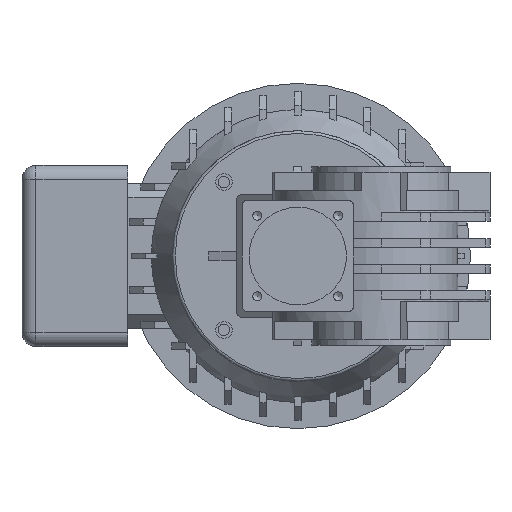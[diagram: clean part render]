
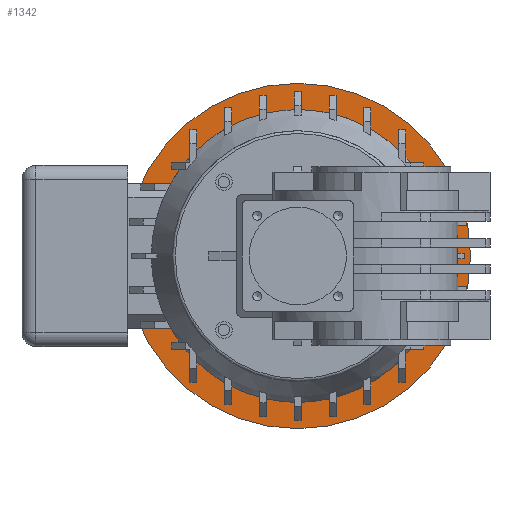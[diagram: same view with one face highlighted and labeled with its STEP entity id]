
A CAD part, left-side view. The second image highlights one B-rep face of the part: STEP entity #1342.
In plain terms, the highlighted planar face has unit normal (-1, 0, 0).
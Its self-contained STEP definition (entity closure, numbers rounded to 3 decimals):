
#1342 = ADVANCED_FACE( '', ( #2949, #2950 ), #2951, .F. );
#2949 = FACE_OUTER_BOUND( '', #5720, .T. );
#2950 = FACE_BOUND( '', #5721, .T. );
#2951 = PLANE( '', #5722 );
#5720 = EDGE_LOOP( '', ( #9893 ) );
#5721 = EDGE_LOOP( '', ( #9894 ) );
#5722 = AXIS2_PLACEMENT_3D( '', #9895, #9896, #9897 );
#9893 = ORIENTED_EDGE( '', *, *, #13338, .F. );
#9894 = ORIENTED_EDGE( '', *, *, #13381, .T. );
#9895 = CARTESIAN_POINT( '', ( 203.5, 30., 0. ) );
#9896 = DIRECTION( '', ( 1., 0., 0. ) );
#9897 = DIRECTION( '', ( 0., 0., 1. ) );
#13338 = EDGE_CURVE( '', #16238, #16238, #16239, .T. );
#13381 = EDGE_CURVE( '', #16291, #16291, #16292, .T. );
#16238 = VERTEX_POINT( '', #21417 );
#16239 = CIRCLE( '', #21418, 62. );
#16291 = VERTEX_POINT( '', #21493 );
#16292 = CIRCLE( '', #21494, 52.5 );
#21417 = CARTESIAN_POINT( '', ( 203.5, 30., 62. ) );
#21418 = AXIS2_PLACEMENT_3D( '', #23965, #23966, #23967 );
#21493 = CARTESIAN_POINT( '', ( 203.5, 82.5, 0. ) );
#21494 = AXIS2_PLACEMENT_3D( '', #24006, #24007, #24008 );
#23965 = CARTESIAN_POINT( '', ( 203.5, 30., 0. ) );
#23966 = DIRECTION( '', ( 1., 0., 0. ) );
#23967 = DIRECTION( '', ( 0., 0., 1. ) );
#24006 = CARTESIAN_POINT( '', ( 203.5, 30., 0. ) );
#24007 = DIRECTION( '', ( 1., 0., 0. ) );
#24008 = DIRECTION( '', ( 0., 1., 0. ) );
